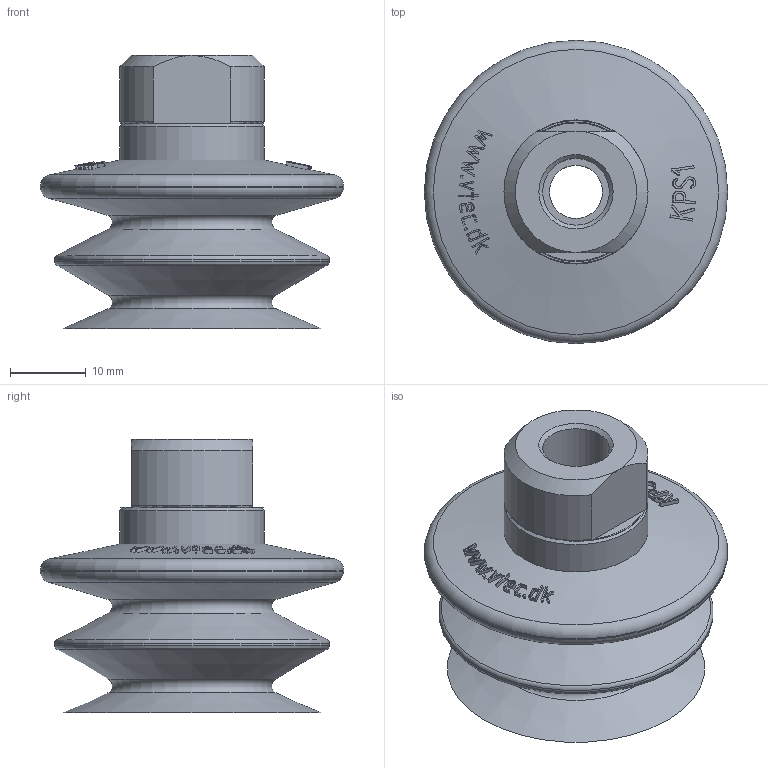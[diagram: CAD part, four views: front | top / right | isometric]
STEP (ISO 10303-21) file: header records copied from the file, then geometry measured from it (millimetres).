
FILE_DESCRIPTION( ( 'STEP AP214' ), '1' );
FILE_NAME( 'E:/Vtec 3D/Vacuum Pad/KPS series/KPS1-18M.stp', '2006-08-12T02:51:04', ( ' ' ), ( ' ' ), 'XStep 1.0', ' ', ' ' );
FILE_SCHEMA( ( 'CONFIG_CONTROL_DESIGN) ( )' ) );
Length unit declared in the file: metre
Products named in the file (1): 2
Bounding box: 40 x 40 x 36 mm (x, y, z)
Volume: 5643.4 mm3; surface area: 10617.7 mm2
Topology: 1 solids, 1 shells, 196 faces, 494 edges, 322 vertices
Faces by surface type: plane 93, bspline 38, cone 36, extrusion 11, torus 10, cylinder 8
Full cylindrical faces by diameter (mm): 7 x1, 8.8 x1, 18 x1, 19 x1, 36.2 x1, 40 x1
Entity records: 11155 total; most frequent: CARTESIAN_POINT 5724, ORIENTED_EDGE 910, DIRECTION 501, EDGE_CURVE 455, B_SPLINE_CURVE_WITH_KNOTS 325, VERTEX_POINT 315, EDGE_LOOP 252, FACE_OUTER_BOUND 212
